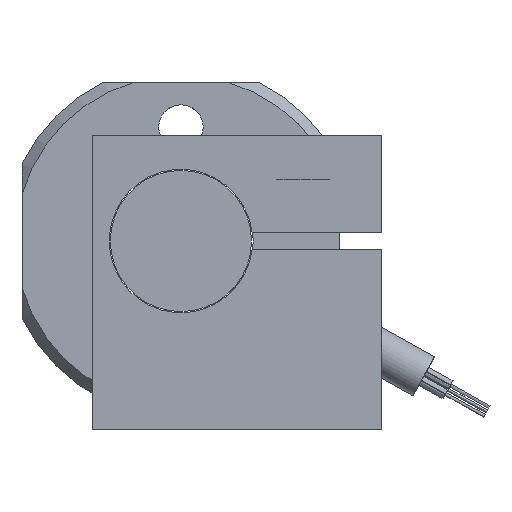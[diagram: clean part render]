
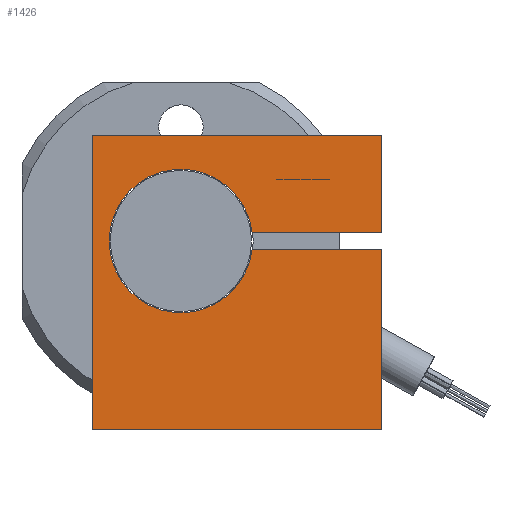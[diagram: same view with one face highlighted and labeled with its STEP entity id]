
A CAD part, left-side view. The second image highlights one B-rep face of the part: STEP entity #1426.
In plain terms, the highlighted planar face has unit normal (-1, 0, 0) as drawn and (0, 0, -1) by its records, which use the part's own axes.
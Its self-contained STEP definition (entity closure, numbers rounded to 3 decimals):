
#25 = CARTESIAN_POINT ( 'NONE',  ( 17., 8., -5.5 ) ) ;
#129 = DIRECTION ( 'NONE',  ( 1., 0., 0. ) ) ;
#132 = DIRECTION ( 'NONE',  ( 0., 0., 1. ) ) ;
#141 = CARTESIAN_POINT ( 'NONE',  ( 0., 0., -5.5 ) ) ;
#162 = DIRECTION ( 'NONE',  ( 0., -1., 0. ) ) ;
#169 = ORIENTED_EDGE ( 'NONE', *, *, #437, .F. ) ;
#177 = VECTOR ( 'NONE', #2378, 1000. ) ;
#188 = PLANE ( 'NONE',  #1462 ) ;
#247 = CIRCLE ( 'NONE', #1546, 6.45 ) ;
#308 = VECTOR ( 'NONE', #2404, 1000. ) ;
#311 = EDGE_CURVE ( 'NONE', #773, #2707, #1096, .T. ) ;
#328 = VERTEX_POINT ( 'NONE', #1348 ) ;
#330 = EDGE_CURVE ( 'NONE', #2707, #328, #2563, .T. ) ;
#437 = EDGE_CURVE ( 'NONE', #328, #2743, #1395, .T. ) ;
#455 = DIRECTION ( 'NONE',  ( 1., 0., 0. ) ) ;
#464 = DIRECTION ( 'NONE',  ( 0., 0., -1. ) ) ;
#473 = CARTESIAN_POINT ( 'NONE',  ( 0., 0., -5.5 ) ) ;
#521 = CARTESIAN_POINT ( 'NONE',  ( -0.75, -18., -5.5 ) ) ;
#525 = EDGE_CURVE ( 'NONE', #1502, #1036, #1574, .T. ) ;
#594 = CARTESIAN_POINT ( 'NONE',  ( 0.75, -18., -5.5 ) ) ;
#724 = ORIENTED_EDGE ( 'NONE', *, *, #1185, .F. ) ;
#741 = CARTESIAN_POINT ( 'NONE',  ( -9.5, -18., -5.5 ) ) ;
#773 = VERTEX_POINT ( 'NONE', #1223 ) ;
#844 = ORIENTED_EDGE ( 'NONE', *, *, #311, .F. ) ;
#1009 = CARTESIAN_POINT ( 'NONE',  ( -9.5, 8., -5.5 ) ) ;
#1036 = VERTEX_POINT ( 'NONE', #741 ) ;
#1096 = LINE ( 'NONE', #1839, #1301 ) ;
#1169 = VERTEX_POINT ( 'NONE', #521 ) ;
#1185 = EDGE_CURVE ( 'NONE', #2432, #773, #247, .T. ) ;
#1223 = CARTESIAN_POINT ( 'NONE',  ( 0.75, -6.406, -5.5 ) ) ;
#1235 = DIRECTION ( 'NONE',  ( 0., 1., 0. ) ) ;
#1245 = CARTESIAN_POINT ( 'NONE',  ( 17., 8., -5.5 ) ) ;
#1249 = CARTESIAN_POINT ( 'NONE',  ( -0.75, -6.406, -5.5 ) ) ;
#1270 = VECTOR ( 'NONE', #162, 1000. ) ;
#1294 = ORIENTED_EDGE ( 'NONE', *, *, #525, .F. ) ;
#1301 = VECTOR ( 'NONE', #2025, 1000. ) ;
#1339 = CARTESIAN_POINT ( 'NONE',  ( 0.75, -18., -5.5 ) ) ;
#1348 = CARTESIAN_POINT ( 'NONE',  ( 17., -18., -5.5 ) ) ;
#1365 = DIRECTION ( 'NONE',  ( 1., 0., 0. ) ) ;
#1395 = LINE ( 'NONE', #1245, #2266 ) ;
#1419 = LINE ( 'NONE', #1249, #2238 ) ;
#1426 = ADVANCED_FACE ( 'NONE', ( #1614 ), #188, .F. ) ;
#1462 = AXIS2_PLACEMENT_3D ( 'NONE', #141, #132, #129 ) ;
#1502 = VERTEX_POINT ( 'NONE', #2309 ) ;
#1546 = AXIS2_PLACEMENT_3D ( 'NONE', #473, #464, #455 ) ;
#1574 = LINE ( 'NONE', #1009, #1270 ) ;
#1614 = FACE_OUTER_BOUND ( 'NONE', #2256, .T. ) ;
#1753 = DIRECTION ( 'NONE',  ( 0., 1., 0. ) ) ;
#1791 = VECTOR ( 'NONE', #1365, 1000. ) ;
#1839 = CARTESIAN_POINT ( 'NONE',  ( 0.75, -6.406, -5.5 ) ) ;
#1917 = LINE ( 'NONE', #2464, #308 ) ;
#1932 = CARTESIAN_POINT ( 'NONE',  ( -9.5, 8., -5.5 ) ) ;
#1953 = EDGE_CURVE ( 'NONE', #2743, #1502, #2388, .T. ) ;
#2025 = DIRECTION ( 'NONE',  ( 0., -1., 0. ) ) ;
#2096 = ORIENTED_EDGE ( 'NONE', *, *, #330, .F. ) ;
#2207 = EDGE_CURVE ( 'NONE', #1036, #1169, #1917, .T. ) ;
#2238 = VECTOR ( 'NONE', #1235, 1000. ) ;
#2256 = EDGE_LOOP ( 'NONE', ( #2698, #1294, #2590, #169, #2096, #844, #724, #2747 ) ) ;
#2266 = VECTOR ( 'NONE', #1753, 1000. ) ;
#2309 = CARTESIAN_POINT ( 'NONE',  ( -9.5, 8., -5.5 ) ) ;
#2378 = DIRECTION ( 'NONE',  ( -1., 0., 0. ) ) ;
#2388 = LINE ( 'NONE', #1932, #177 ) ;
#2404 = DIRECTION ( 'NONE',  ( 1., 0., 0. ) ) ;
#2432 = VERTEX_POINT ( 'NONE', #2772 ) ;
#2464 = CARTESIAN_POINT ( 'NONE',  ( -9.5, -18., -5.5 ) ) ;
#2560 = EDGE_CURVE ( 'NONE', #1169, #2432, #1419, .T. ) ;
#2563 = LINE ( 'NONE', #1339, #1791 ) ;
#2590 = ORIENTED_EDGE ( 'NONE', *, *, #1953, .F. ) ;
#2698 = ORIENTED_EDGE ( 'NONE', *, *, #2207, .F. ) ;
#2707 = VERTEX_POINT ( 'NONE', #594 ) ;
#2743 = VERTEX_POINT ( 'NONE', #25 ) ;
#2747 = ORIENTED_EDGE ( 'NONE', *, *, #2560, .F. ) ;
#2772 = CARTESIAN_POINT ( 'NONE',  ( -0.75, -6.406, -5.5 ) ) ;
